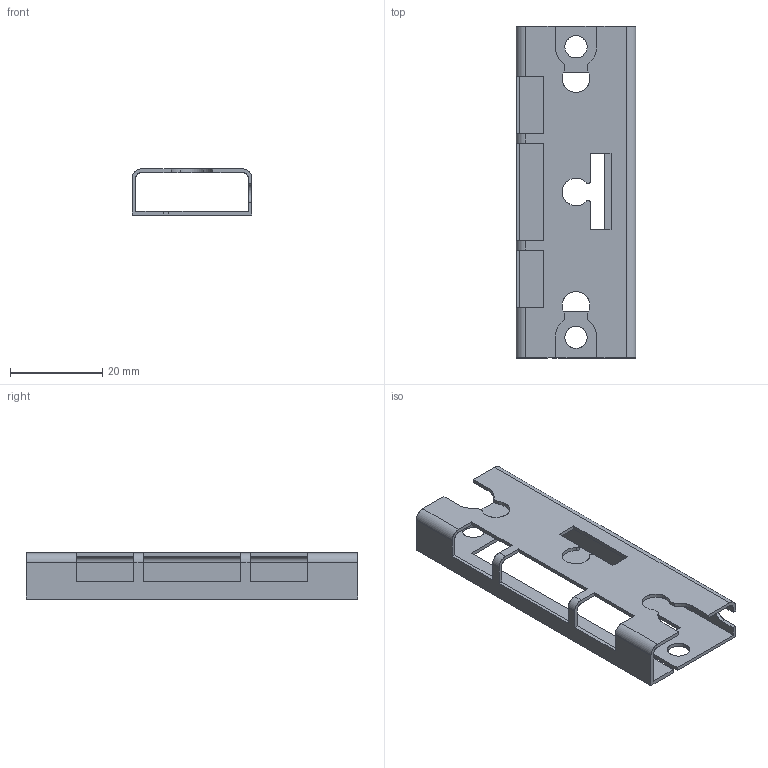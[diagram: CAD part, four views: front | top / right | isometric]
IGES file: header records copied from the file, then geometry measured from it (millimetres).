
Start section: SolidWorks IGES FILE using analytic representation for surfaces
Global section: file name: \\intra-srv04\開発データ\CAD_Data\CAD委員会\3D電子ｶﾀﾛｸﾞ\製品カタログ（新）\0_IGES\MS-NA3-3.IGS,41HSolidWorks 2004; native system: by SolidWorks Corporation; preprocessor: Version 5.3; author: yk0651; date: 051027.091717; units: millimetre
Bounding box: 26 x 72 x 10 mm (x, y, z)
Surface area: 7108.9 mm2 (no closed solid volume)
Topology: 0 solids, 0 shells, 80 faces, 1022 edges, 1022 vertices
Faces by surface type: bspline 51, revolution 29
